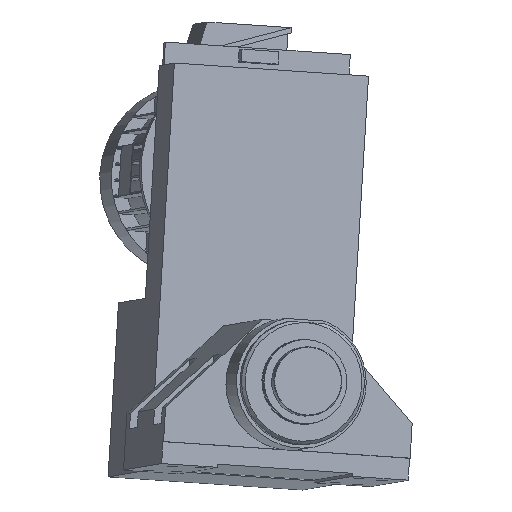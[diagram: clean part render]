
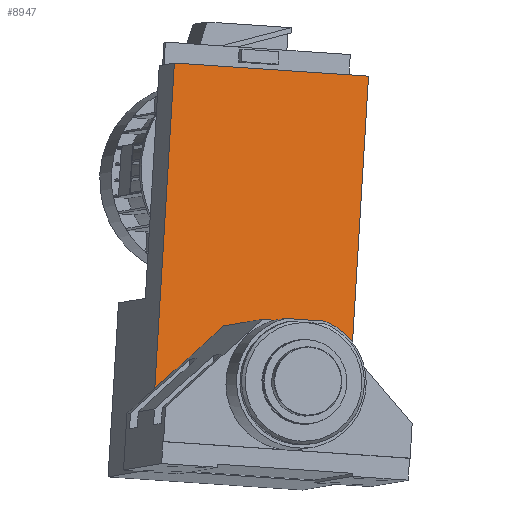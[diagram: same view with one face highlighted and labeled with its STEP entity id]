
A CAD part, front view. The second image highlights one B-rep face of the part: STEP entity #8947.
In plain terms, the highlighted planar face has unit normal (0.178, -0.984, 0.03).
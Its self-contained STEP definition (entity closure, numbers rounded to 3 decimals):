
#8795=CARTESIAN_POINT('',(147.452,246.944,735.524));
#8796=VERTEX_POINT('',#8795);
#8797=CARTESIAN_POINT('',(116.26,225.538,217.072));
#8798=VERTEX_POINT('',#8797);
#8799=CARTESIAN_POINT('',(147.452,246.944,735.524));
#8800=DIRECTION('',(-0.06,-0.041,-0.997));
#8801=VECTOR('',#8800,519.831);
#8802=LINE('',#8799,#8801);
#8803=EDGE_CURVE('',#8796,#8798,#8802,.T.);
#8867=CARTESIAN_POINT('',(-193.158,170.323,237.967));
#8868=VERTEX_POINT('',#8867);
#8875=CARTESIAN_POINT('',(-161.967,191.729,756.419));
#8876=VERTEX_POINT('',#8875);
#8877=CARTESIAN_POINT('',(-193.158,170.323,237.967));
#8878=DIRECTION('',(0.06,0.041,0.997));
#8879=VECTOR('',#8878,519.831);
#8880=LINE('',#8877,#8879);
#8881=EDGE_CURVE('',#8868,#8876,#8880,.T.);
#8901=CARTESIAN_POINT('',(-161.967,191.729,756.419));
#8902=DIRECTION('',(0.982,0.175,-0.066));
#8903=VECTOR('',#8902,315.);
#8904=LINE('',#8901,#8903);
#8905=EDGE_CURVE('',#8876,#8796,#8904,.T.);
#8915=CARTESIAN_POINT('',(-26.758,205.953,421.834));
#8916=DIRECTION('',(0.178,-0.984,0.03));
#8917=DIRECTION('',(0.982,0.175,-0.066));
#8918=AXIS2_PLACEMENT_3D('',#8915,#8916,#8917);
#8919=PLANE('',#8918);
#8920=CARTESIAN_POINT('',(19.36,211.501,330.596));
#8921=VERTEX_POINT('',#8920);
#8922=CARTESIAN_POINT('',(116.26,225.538,217.072));
#8923=DIRECTION('',(-0.646,-0.094,0.757));
#8924=VECTOR('',#8923,149.914);
#8925=LINE('',#8922,#8924);
#8926=EDGE_CURVE('',#8798,#8921,#8925,.T.);
#8927=ORIENTED_EDGE('',*,*,#8926,.F.);
#8928=ORIENTED_EDGE('',*,*,#8803,.F.);
#8929=ORIENTED_EDGE('',*,*,#8905,.F.);
#8930=ORIENTED_EDGE('',*,*,#8881,.F.);
#8931=CARTESIAN_POINT('',(-83.437,193.158,337.538));
#8932=VERTEX_POINT('',#8931);
#8933=CARTESIAN_POINT('',(-83.437,193.158,337.538));
#8934=DIRECTION('',(-0.732,-0.152,-0.664));
#8935=VECTOR('',#8934,149.914);
#8936=LINE('',#8933,#8935);
#8937=EDGE_CURVE('',#8932,#8868,#8936,.T.);
#8938=ORIENTED_EDGE('',*,*,#8937,.F.);
#8939=CARTESIAN_POINT('',(19.36,211.501,330.596));
#8940=DIRECTION('',(-0.982,-0.175,0.066));
#8941=VECTOR('',#8940,104.652);
#8942=LINE('',#8939,#8941);
#8943=EDGE_CURVE('',#8921,#8932,#8942,.T.);
#8944=ORIENTED_EDGE('',*,*,#8943,.F.);
#8945=EDGE_LOOP('',(#8927,#8928,#8929,#8930,#8938,#8944));
#8946=FACE_OUTER_BOUND('',#8945,.T.);
#8947=ADVANCED_FACE('',(#8946),#8919,.T.);
